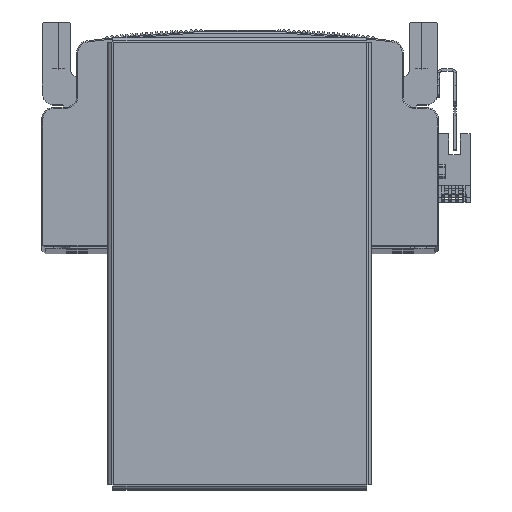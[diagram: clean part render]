
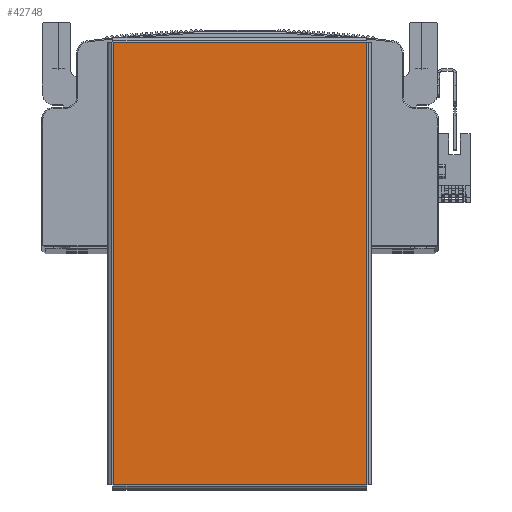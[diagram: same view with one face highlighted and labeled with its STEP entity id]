
A CAD part, top view. The second image highlights one B-rep face of the part: STEP entity #42748.
In plain terms, the highlighted planar face has unit normal (0, 0, 1) as drawn and (0, -1, 0) by its records, which use the part's own axes.
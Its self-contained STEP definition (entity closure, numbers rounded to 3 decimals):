
#2419 = PLANE ( 'NONE',  #69204 ) ;
#2434 = DIRECTION ( 'NONE',  ( 0., 1., 0. ) ) ;
#2443 = DIRECTION ( 'NONE',  ( 0., 0., 1. ) ) ;
#2463 = CARTESIAN_POINT ( 'NONE',  ( 0., -1.5, 0. ) ) ;
#14563 = LINE ( 'NONE', #18125, #14571 ) ;
#14571 = VECTOR ( 'NONE', #18097, 1000. ) ;
#14703 = LINE ( 'NONE', #18304, #14706 ) ;
#14706 = VECTOR ( 'NONE', #18280, 1000. ) ;
#14708 = VECTOR ( 'NONE', #18283, 1000. ) ;
#14714 = LINE ( 'NONE', #18199, #14723 ) ;
#14723 = VECTOR ( 'NONE', #18182, 1000. ) ;
#14739 = LINE ( 'NONE', #18296, #14708 ) ;
#15815 = VERTEX_POINT ( 'NONE', #24840 ) ;
#15867 = VERTEX_POINT ( 'NONE', #24993 ) ;
#15882 = VERTEX_POINT ( 'NONE', #25032 ) ;
#15907 = VERTEX_POINT ( 'NONE', #25014 ) ;
#17092 = EDGE_LOOP ( 'NONE', ( #68537, #68541, #68573, #68576 ) ) ;
#18097 = DIRECTION ( 'NONE',  ( 0., 0., -1. ) ) ;
#18125 = CARTESIAN_POINT ( 'NONE',  ( -94.763, -1.5, 54.393 ) ) ;
#18182 = DIRECTION ( 'NONE',  ( 0., 0., 1. ) ) ;
#18199 = CARTESIAN_POINT ( 'NONE',  ( 94.763, -1.5, -54.393 ) ) ;
#18280 = DIRECTION ( 'NONE',  ( -1., 0., 0. ) ) ;
#18283 = DIRECTION ( 'NONE',  ( 1., 0., 0. ) ) ;
#18296 = CARTESIAN_POINT ( 'NONE',  ( -94.793, -1.5, -54.363 ) ) ;
#18304 = CARTESIAN_POINT ( 'NONE',  ( 94.793, -1.5, 54.363 ) ) ;
#24840 = CARTESIAN_POINT ( 'NONE',  ( 94.763, -1.5, -54.363 ) ) ;
#24993 = CARTESIAN_POINT ( 'NONE',  ( 94.763, -1.5, 54.363 ) ) ;
#25014 = CARTESIAN_POINT ( 'NONE',  ( -94.763, -1.5, -54.363 ) ) ;
#25032 = CARTESIAN_POINT ( 'NONE',  ( -94.763, -1.5, 54.363 ) ) ;
#34549 = EDGE_CURVE ( 'NONE', #15882, #15907, #14563, .T. ) ;
#34635 = EDGE_CURVE ( 'NONE', #15815, #15867, #14714, .T. ) ;
#34684 = EDGE_CURVE ( 'NONE', #15867, #15882, #14703, .T. ) ;
#34693 = EDGE_CURVE ( 'NONE', #15907, #15815, #14739, .T. ) ;
#42748 = ADVANCED_FACE ( 'NONE', ( #58649 ), #2419, .F. ) ;
#58649 = FACE_OUTER_BOUND ( 'NONE', #17092, .T. ) ;
#68537 = ORIENTED_EDGE ( 'NONE', *, *, #34684, .T. ) ;
#68541 = ORIENTED_EDGE ( 'NONE', *, *, #34549, .T. ) ;
#68573 = ORIENTED_EDGE ( 'NONE', *, *, #34693, .T. ) ;
#68576 = ORIENTED_EDGE ( 'NONE', *, *, #34635, .T. ) ;
#69204 = AXIS2_PLACEMENT_3D ( 'NONE', #2463, #2434, #2443 ) ;
